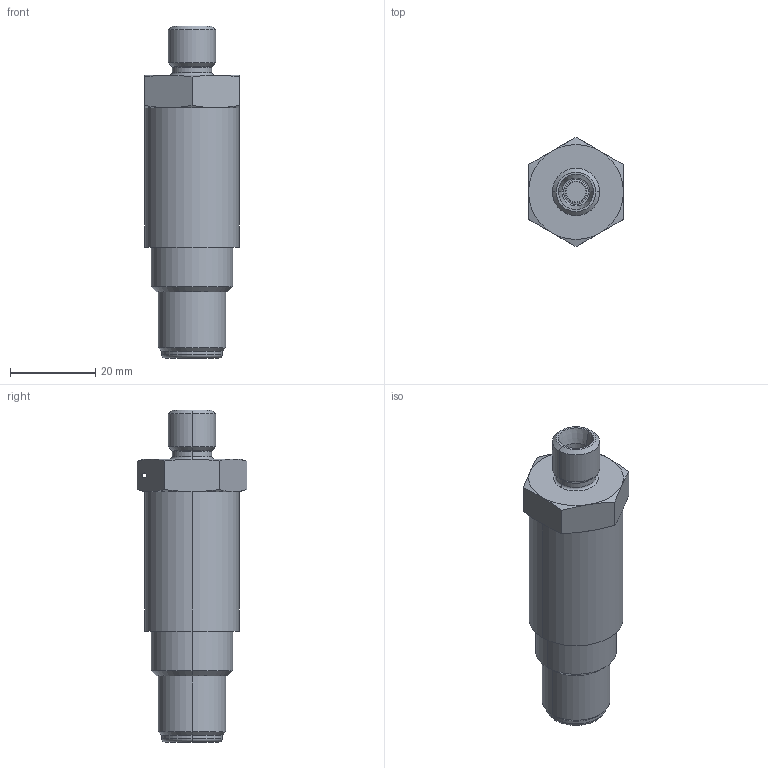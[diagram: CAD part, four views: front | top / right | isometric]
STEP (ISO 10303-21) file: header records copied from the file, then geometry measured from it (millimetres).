
FILE_DESCRIPTION (( 'STEP AP214' ), '1' );
FILE_NAME ('P6P-HTYPE.STEP', '2008-01-14T13:21:52', ( 'Authorized User' ), ( 'Precision Sensors' ), 'SwSTEP 2.0', 'SolidWorks 2006303', '' );
FILE_SCHEMA (( 'AUTOMOTIVE_DESIGN' ));
Length unit declared in the file: inch
Products named in the file (1): P6P-HTYPE
Bounding box: 22.23 x 25.66 x 77.85 mm (x, y, z)
Volume: 20901.9 mm3; surface area: 6109.5 mm2
Topology: 1 solids, 1 shells, 68 faces, 140 edges, 80 vertices
Faces by surface type: cone 24, cylinder 20, plane 14, torus 10
Entity records: 1881 total; most frequent: CARTESIAN_POINT 421, DIRECTION 324, ORIENTED_EDGE 280, AXIS2_PLACEMENT_3D 143, EDGE_CURVE 140, VERTEX_POINT 80, EDGE_LOOP 76, CIRCLE 74
